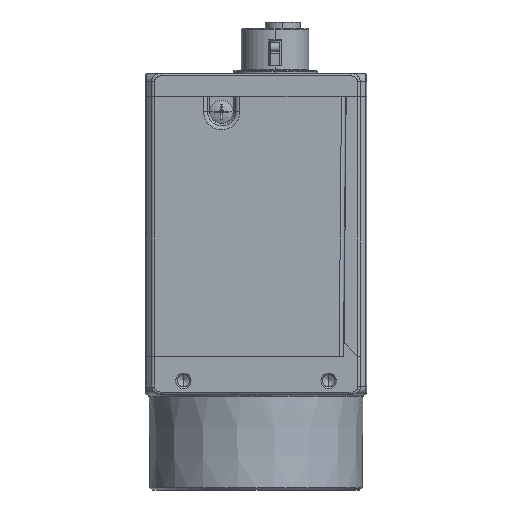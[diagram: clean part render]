
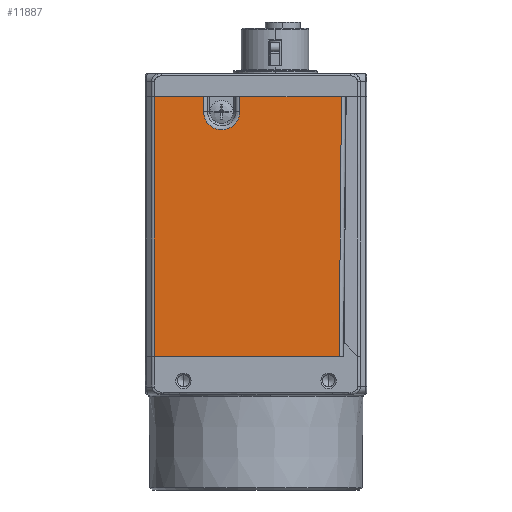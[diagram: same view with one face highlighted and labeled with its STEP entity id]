
A CAD part, left-side view. The second image highlights one B-rep face of the part: STEP entity #11887.
In plain terms, the highlighted planar face has unit normal (-1, 0, 0).
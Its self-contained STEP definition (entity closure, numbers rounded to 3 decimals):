
#4577=CARTESIAN_POINT('',(-14.5,4.5,31.5));
#4578=DIRECTION('',(1.,0.,0.));
#4579=DIRECTION('',(0.,0.992,-0.122));
#4580=AXIS2_PLACEMENT_3D('',#4577,#4578,#4579);
#4582=CARTESIAN_POINT('',(-14.5,4.5,31.5));
#4583=DIRECTION('',(1.,0.,0.));
#4584=DIRECTION('',(0.,-1.,0.));
#4585=AXIS2_PLACEMENT_3D('',#4582,#4583,#4584);
#4587=DIRECTION('',(0.,-0.009,1.));
#4588=VECTOR('',#4587,34.001);
#4589=CARTESIAN_POINT('',(-14.5,-10.88,
-0.5));
#4590=LINE('',#4589,#4588);
#4591=DIRECTION('',(0.,-1.,0.));
#4592=VECTOR('',#4591,6.435);
#4593=CARTESIAN_POINT('',(-14.5,13.293,33.5));
#4594=LINE('',#4593,#4592);
#4668=DIRECTION('',(0.,-1.,0.));
#4669=VECTOR('',#4668,13.318);
#4670=CARTESIAN_POINT('',(-14.5,2.142,33.5));
#4671=LINE('',#4670,#4669);
#4676=CARTESIAN_POINT('',(-14.5,13.293,33.5));
#4686=DIRECTION('',(0.,0.,-1.));
#4687=VECTOR('',#4686,34.);
#4688=CARTESIAN_POINT('',(-14.5,13.293,33.5));
#4689=LINE('',#4688,#4687);
#4716=DIRECTION('',(0.,1.,0.));
#4717=VECTOR('',#4716,24.173);
#4718=CARTESIAN_POINT('',(-14.5,-10.88,
-0.5));
#4719=LINE('',#4718,#4717);
#8971=DIRECTION('',(0.,0.,1.));
#8972=VECTOR('',#8971,2.);
#8973=CARTESIAN_POINT('',(-14.5,6.858,31.5));
#8974=LINE('',#8973,#8972);
#8998=DIRECTION('',(0.,0.,-1.));
#8999=VECTOR('',#8998,2.);
#9000=CARTESIAN_POINT('',(-14.5,2.142,33.5));
#9001=LINE('',#9000,#8999);
#10167=CARTESIAN_POINT('',(-14.5,13.293,-0.5));
#10168=VERTEX_POINT('',#10167);
#10169=CARTESIAN_POINT('',(-14.5,-10.88,
-0.5));
#10170=VERTEX_POINT('',#10169);
#10171=CARTESIAN_POINT('',(-14.5,6.841,31.211));
#10172=CARTESIAN_POINT('',(-14.5,6.858,31.5));
#10173=VERTEX_POINT('',#10171);
#10174=VERTEX_POINT('',#10172);
#10175=CARTESIAN_POINT('',(-14.5,2.142,31.5));
#10176=VERTEX_POINT('',#10175);
#10784=VERTEX_POINT('',#4676);
#10785=CARTESIAN_POINT('',(-14.5,6.858,33.5));
#10786=VERTEX_POINT('',#10785);
#10787=CARTESIAN_POINT('',(-14.5,2.142,33.5));
#10788=CARTESIAN_POINT('',(-14.5,-11.177,
33.5));
#10789=VERTEX_POINT('',#10787);
#10790=VERTEX_POINT('',#10788);
#11863=CARTESIAN_POINT('',(-14.5,1.058,16.5));
#11864=DIRECTION('',(1.,0.,0.));
#11865=DIRECTION('',(0.,-1.,0.));
#11866=AXIS2_PLACEMENT_3D('',#11863,#11864,#11865);
#11867=PLANE('',#11866);
#11869=ORIENTED_EDGE('',*,*,#11868,.T.);
#11871=ORIENTED_EDGE('',*,*,#11870,.F.);
#11873=ORIENTED_EDGE('',*,*,#11872,.F.);
#11875=ORIENTED_EDGE('',*,*,#11874,.F.);
#11877=ORIENTED_EDGE('',*,*,#11876,.F.);
#11879=ORIENTED_EDGE('',*,*,#11878,.T.);
#11880=ORIENTED_EDGE('',*,*,#11855,.F.);
#11882=ORIENTED_EDGE('',*,*,#11881,.T.);
#11884=ORIENTED_EDGE('',*,*,#11883,.F.);
#11885=EDGE_LOOP('',(#11869,#11871,#11873,#11875,#11877,#11879,#11880,#11882,
#11884));
#11886=FACE_OUTER_BOUND('',#11885,.F.);
#11887=ADVANCED_FACE('',(#11886),#11867,.F.);
#4581=CIRCLE('',#4580,2.358);
#4586=CIRCLE('',#4585,2.358);
#11855=EDGE_CURVE('',#10170,#10790,#4590,.T.);
#11868=EDGE_CURVE('',#10784,#10786,#4594,.T.);
#11870=EDGE_CURVE('',#10174,#10786,#8974,.T.);
#11872=EDGE_CURVE('',#10173,#10174,#4581,.T.);
#11874=EDGE_CURVE('',#10176,#10173,#4586,.T.);
#11876=EDGE_CURVE('',#10789,#10176,#9001,.T.);
#11878=EDGE_CURVE('',#10789,#10790,#4671,.T.);
#11881=EDGE_CURVE('',#10170,#10168,#4719,.T.);
#11883=EDGE_CURVE('',#10784,#10168,#4689,.T.);
